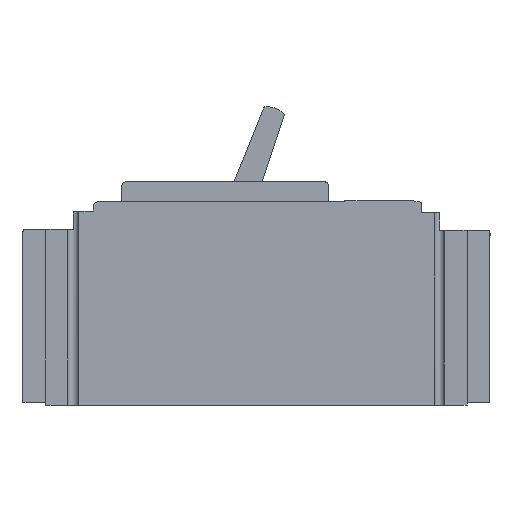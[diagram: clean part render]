
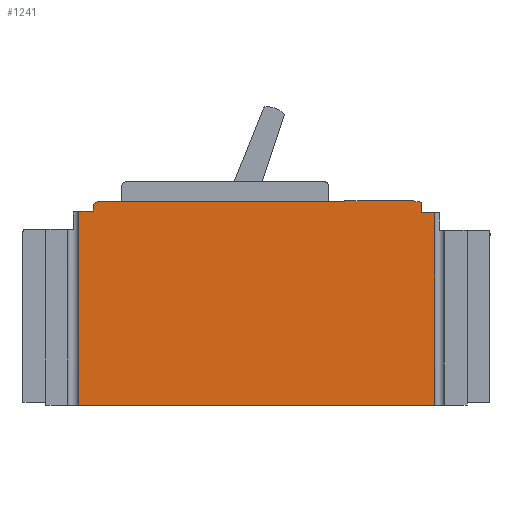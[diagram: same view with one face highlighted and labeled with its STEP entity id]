
A CAD part, left-side view. The second image highlights one B-rep face of the part: STEP entity #1241.
In plain terms, the highlighted planar face has unit normal (-1, 0, 0).
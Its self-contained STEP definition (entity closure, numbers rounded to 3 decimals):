
#82 = VERTEX_POINT ( 'NONE', #1408 ) ;
#150 = CARTESIAN_POINT ( 'NONE',  ( -70., -88.994, 110. ) ) ;
#189 = EDGE_LOOP ( 'NONE', ( #4620, #2004, #4457, #5549, #6652, #6959, #6981, #4992, #1153, #6634, #3811, #1438, #4081, #4142, #3308 ) ) ;
#285 = DIRECTION ( 'NONE',  ( 0., 0., 1. ) ) ;
#305 = CARTESIAN_POINT ( 'NONE',  ( -70., -97.4, 0. ) ) ;
#444 = DIRECTION ( 'NONE',  ( 0., 1., 0. ) ) ;
#460 = CARTESIAN_POINT ( 'NONE',  ( -70., 89.037, 106.001 ) ) ;
#493 = EDGE_CURVE ( 'NONE', #4862, #7241, #6588, .T. ) ;
#540 = EDGE_CURVE ( 'NONE', #3957, #2829, #2900, .T. ) ;
#568 = VERTEX_POINT ( 'NONE', #1204 ) ;
#575 = LINE ( 'NONE', #4032, #2956 ) ;
#584 = VERTEX_POINT ( 'NONE', #7265 ) ;
#607 = FACE_OUTER_BOUND ( 'NONE', #189, .T. ) ;
#649 = AXIS2_PLACEMENT_3D ( 'NONE', #5922, #6550, #7163 ) ;
#695 = CARTESIAN_POINT ( 'NONE',  ( -70., 96.996, 106.001 ) ) ;
#903 = LINE ( 'NONE', #6448, #3093 ) ;
#921 = CARTESIAN_POINT ( 'NONE',  ( -70., -48.265, 111.6 ) ) ;
#924 = EDGE_CURVE ( 'NONE', #6826, #568, #6957, .T. ) ;
#1081 = CARTESIAN_POINT ( 'NONE',  ( -70., -48.265, 111.001 ) ) ;
#1153 = ORIENTED_EDGE ( 'NONE', *, *, #4460, .T. ) ;
#1204 = CARTESIAN_POINT ( 'NONE',  ( -70., -88.994, 111. ) ) ;
#1241 = ADVANCED_FACE ( 'NONE', ( #607 ), #5358, .F. ) ;
#1408 = CARTESIAN_POINT ( 'NONE',  ( -70., -89.994, 105. ) ) ;
#1416 = LINE ( 'NONE', #4886, #6257 ) ;
#1433 = CIRCLE ( 'NONE', #3573, 2.5 ) ;
#1438 = ORIENTED_EDGE ( 'NONE', *, *, #2065, .T. ) ;
#1441 = VECTOR ( 'NONE', #3963, 1000. ) ;
#1480 = CARTESIAN_POINT ( 'NONE',  ( -70., 89.037, 108.501 ) ) ;
#1491 = CARTESIAN_POINT ( 'NONE',  ( -70., -89.994, 105. ) ) ;
#1611 = CARTESIAN_POINT ( 'NONE',  ( -70., -97.4, 122. ) ) ;
#1720 = DIRECTION ( 'NONE',  ( 1., 0., 0. ) ) ;
#1921 = CARTESIAN_POINT ( 'NONE',  ( -70., 89.037, 106.001 ) ) ;
#2004 = ORIENTED_EDGE ( 'NONE', *, *, #6610, .T. ) ;
#2065 = EDGE_CURVE ( 'NONE', #584, #7765, #5619, .T. ) ;
#2094 = EDGE_CURVE ( 'NONE', #3995, #82, #4105, .T. ) ;
#2116 = DIRECTION ( 'NONE',  ( 0., 0., -1. ) ) ;
#2331 = DIRECTION ( 'NONE',  ( 0., 1., 0. ) ) ;
#2483 = VECTOR ( 'NONE', #5102, 1000. ) ;
#2533 = LINE ( 'NONE', #1491, #3575 ) ;
#2676 = VECTOR ( 'NONE', #3357, 1000. ) ;
#2705 = LINE ( 'NONE', #3569, #6885 ) ;
#2729 = AXIS2_PLACEMENT_3D ( 'NONE', #150, #3249, #4495 ) ;
#2812 = VERTEX_POINT ( 'NONE', #4686 ) ;
#2829 = VERTEX_POINT ( 'NONE', #1081 ) ;
#2900 = LINE ( 'NONE', #7766, #7537 ) ;
#2956 = VECTOR ( 'NONE', #5143, 1000. ) ;
#2960 = EDGE_CURVE ( 'NONE', #6269, #3957, #5400, .T. ) ;
#2994 = VECTOR ( 'NONE', #7125, 1000. ) ;
#3093 = VECTOR ( 'NONE', #4680, 1000. ) ;
#3104 = AXIS2_PLACEMENT_3D ( 'NONE', #1611, #1720, #2331 ) ;
#3249 = DIRECTION ( 'NONE',  ( -1., 0., 0. ) ) ;
#3258 = VERTEX_POINT ( 'NONE', #305 ) ;
#3308 = ORIENTED_EDGE ( 'NONE', *, *, #540, .T. ) ;
#3357 = DIRECTION ( 'NONE',  ( 0., 0.916, 0.4 ) ) ;
#3399 = CARTESIAN_POINT ( 'NONE',  ( -70., -97.4, 105. ) ) ;
#3407 = VECTOR ( 'NONE', #2116, 1000. ) ;
#3569 = CARTESIAN_POINT ( 'NONE',  ( -70., -87.08, 111. ) ) ;
#3573 = AXIS2_PLACEMENT_3D ( 'NONE', #4869, #4285, #6062 ) ;
#3575 = VECTOR ( 'NONE', #285, 1000. ) ;
#3794 = CARTESIAN_POINT ( 'NONE',  ( -70., 86.537, 111.001 ) ) ;
#3811 = ORIENTED_EDGE ( 'NONE', *, *, #4688, .T. ) ;
#3957 = VERTEX_POINT ( 'NONE', #921 ) ;
#3963 = DIRECTION ( 'NONE',  ( 0., 1., 0. ) ) ;
#3987 = CARTESIAN_POINT ( 'NONE',  ( -70., -97.4, 0. ) ) ;
#3995 = VERTEX_POINT ( 'NONE', #3399 ) ;
#4032 = CARTESIAN_POINT ( 'NONE',  ( -70., 96.996, 122. ) ) ;
#4081 = ORIENTED_EDGE ( 'NONE', *, *, #4756, .T. ) ;
#4091 = LINE ( 'NONE', #3987, #2483 ) ;
#4105 = LINE ( 'NONE', #4627, #1441 ) ;
#4142 = ORIENTED_EDGE ( 'NONE', *, *, #2960, .T. ) ;
#4285 = DIRECTION ( 'NONE',  ( -1., 0., 0. ) ) ;
#4457 = ORIENTED_EDGE ( 'NONE', *, *, #5602, .T. ) ;
#4460 = EDGE_CURVE ( 'NONE', #82, #6826, #2533, .T. ) ;
#4468 = CARTESIAN_POINT ( 'NONE',  ( -70., -89.994, 110. ) ) ;
#4495 = DIRECTION ( 'NONE',  ( 0., -1., 0. ) ) ;
#4620 = ORIENTED_EDGE ( 'NONE', *, *, #5442, .T. ) ;
#4627 = CARTESIAN_POINT ( 'NONE',  ( -70., -99.494, 105. ) ) ;
#4635 = EDGE_CURVE ( 'NONE', #3995, #3258, #903, .T. ) ;
#4680 = DIRECTION ( 'NONE',  ( 0., 0., -1. ) ) ;
#4686 = CARTESIAN_POINT ( 'NONE',  ( -70., 89.037, 108.501 ) ) ;
#4688 = EDGE_CURVE ( 'NONE', #568, #584, #2705, .T. ) ;
#4756 = EDGE_CURVE ( 'NONE', #7765, #6269, #6308, .T. ) ;
#4862 = VERTEX_POINT ( 'NONE', #1921 ) ;
#4869 = CARTESIAN_POINT ( 'NONE',  ( -70., 86.537, 108.501 ) ) ;
#4886 = CARTESIAN_POINT ( 'NONE',  ( -70., -48.265, 111.001 ) ) ;
#4992 = ORIENTED_EDGE ( 'NONE', *, *, #2094, .T. ) ;
#5102 = DIRECTION ( 'NONE',  ( 0., -1., 0. ) ) ;
#5143 = DIRECTION ( 'NONE',  ( 0., 0., -1. ) ) ;
#5358 = PLANE ( 'NONE',  #3104 ) ;
#5400 = LINE ( 'NONE', #6748, #6629 ) ;
#5442 = EDGE_CURVE ( 'NONE', #2829, #6013, #1416, .T. ) ;
#5479 = CARTESIAN_POINT ( 'NONE',  ( -70., -86.091, 111.433 ) ) ;
#5519 = DIRECTION ( 'NONE',  ( 0., 1., 0. ) ) ;
#5549 = ORIENTED_EDGE ( 'NONE', *, *, #493, .T. ) ;
#5602 = EDGE_CURVE ( 'NONE', #2812, #4862, #6336, .T. ) ;
#5619 = LINE ( 'NONE', #5839, #2676 ) ;
#5839 = CARTESIAN_POINT ( 'NONE',  ( -70., -86.091, 111.433 ) ) ;
#5922 = CARTESIAN_POINT ( 'NONE',  ( -70., -85.29, 109.6 ) ) ;
#6013 = VERTEX_POINT ( 'NONE', #3794 ) ;
#6062 = DIRECTION ( 'NONE',  ( 0., -1., 0. ) ) ;
#6257 = VECTOR ( 'NONE', #5519, 1000. ) ;
#6269 = VERTEX_POINT ( 'NONE', #6452 ) ;
#6308 = CIRCLE ( 'NONE', #649, 2. ) ;
#6336 = LINE ( 'NONE', #1480, #3407 ) ;
#6448 = CARTESIAN_POINT ( 'NONE',  ( -70., -97.4, 122. ) ) ;
#6452 = CARTESIAN_POINT ( 'NONE',  ( -70., -85.29, 111.6 ) ) ;
#6550 = DIRECTION ( 'NONE',  ( -1., 0., 0. ) ) ;
#6588 = LINE ( 'NONE', #460, #2994 ) ;
#6610 = EDGE_CURVE ( 'NONE', #6013, #2812, #1433, .T. ) ;
#6626 = DIRECTION ( 'NONE',  ( 0., 0., -1. ) ) ;
#6629 = VECTOR ( 'NONE', #6776, 1000. ) ;
#6634 = ORIENTED_EDGE ( 'NONE', *, *, #924, .T. ) ;
#6652 = ORIENTED_EDGE ( 'NONE', *, *, #7569, .T. ) ;
#6737 = CARTESIAN_POINT ( 'NONE',  ( -70., 96.996, 0. ) ) ;
#6748 = CARTESIAN_POINT ( 'NONE',  ( -70., -85.29, 111.6 ) ) ;
#6776 = DIRECTION ( 'NONE',  ( 0., 1., 0. ) ) ;
#6826 = VERTEX_POINT ( 'NONE', #4468 ) ;
#6860 = EDGE_CURVE ( 'NONE', #7254, #3258, #4091, .T. ) ;
#6885 = VECTOR ( 'NONE', #444, 1000. ) ;
#6957 = CIRCLE ( 'NONE', #2729, 1. ) ;
#6959 = ORIENTED_EDGE ( 'NONE', *, *, #6860, .T. ) ;
#6981 = ORIENTED_EDGE ( 'NONE', *, *, #4635, .F. ) ;
#7125 = DIRECTION ( 'NONE',  ( 0., 1., 0. ) ) ;
#7163 = DIRECTION ( 'NONE',  ( 0., -1., 0. ) ) ;
#7241 = VERTEX_POINT ( 'NONE', #695 ) ;
#7254 = VERTEX_POINT ( 'NONE', #6737 ) ;
#7265 = CARTESIAN_POINT ( 'NONE',  ( -70., -87.08, 111. ) ) ;
#7537 = VECTOR ( 'NONE', #6626, 1000. ) ;
#7569 = EDGE_CURVE ( 'NONE', #7241, #7254, #575, .T. ) ;
#7765 = VERTEX_POINT ( 'NONE', #5479 ) ;
#7766 = CARTESIAN_POINT ( 'NONE',  ( -70., -48.265, 111.6 ) ) ;
